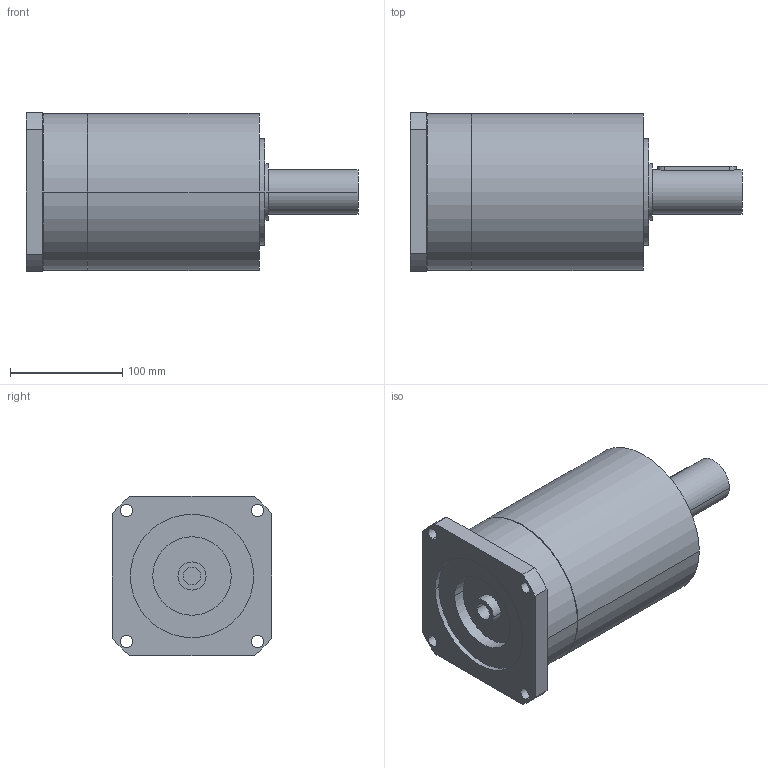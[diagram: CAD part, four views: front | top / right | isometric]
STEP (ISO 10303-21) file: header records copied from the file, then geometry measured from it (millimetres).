
FILE_DESCRIPTION(('CoCreate Modeling STEP Export'),'2;1');
FILE_NAME('GPR150_ig-9-12-16-20-28-35_40_B14_15.87_P14.stp','2014-08-19T17:02:52',(''),(''),'CoCreate Modeling STEP processor for AP214 (Solid Model)','CoCreate Modeling 16.00C 25-Feb-2009 (C) Parametric Technology GmbH','');
FILE_SCHEMA(('AUTOMOTIVE_DESIGN { 1 0 10303 214 1 1 1 1 }'));
Length unit declared in the file: millimetre
Products named in the file (2): GPR150_ig-9-12-16-20-28-35_40_B14_15.87_P14
Assembly tree (1 placements, depth 2):
  GPR150_ig-9-12-16-20-28-35_40_B14_15.87_P14
    GPR150_ig-9-12-16-20-28-35_40_B14_15.87_P14
Bounding box: 296 x 142 x 142 mm (x, y, z)
Volume: 3304651.1 mm3; surface area: 158139.8 mm2
Topology: 1 solids, 1 shells, 70 faces, 189 edges, 133 vertices
Faces by surface type: cylinder 42, plane 22, cone 6
Entity records: 1973 total; most frequent: CARTESIAN_POINT 386, ORIENTED_EDGE 374, DIRECTION 264, EDGE_CURVE 187, VERTEX_POINT 133, AXIS2_PLACEMENT_3D 99, EDGE_LOOP 92, FACE_OUTER_BOUND 70
